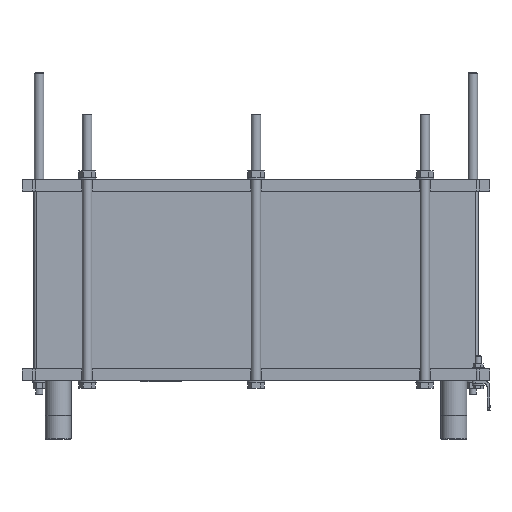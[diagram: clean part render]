
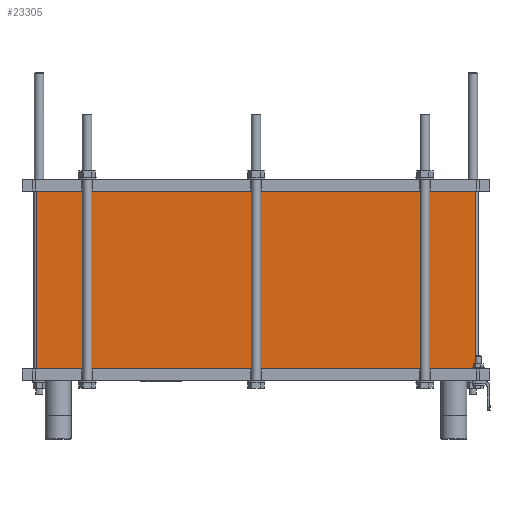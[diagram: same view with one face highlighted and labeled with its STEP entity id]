
A CAD part, left-side view. The second image highlights one B-rep face of the part: STEP entity #23305.
In plain terms, the highlighted planar face has unit normal (-1, 0, 0).
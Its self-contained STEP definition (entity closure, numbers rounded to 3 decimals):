
#15365=CARTESIAN_POINT('',(-62.5,-370.0,20.0));
#15366=VERTEX_POINT('',#15365);
#15374=CARTESIAN_POINT('',(-62.5,370.0,20.0));
#15375=VERTEX_POINT('',#15374);
#15376=CARTESIAN_POINT('',(-62.5,-370.0,20.0));
#15377=DIRECTION('',(0.0,1.0,0.0));
#15378=VECTOR('',#15377,740.0);
#15379=LINE('',#15376,#15378);
#15380=EDGE_CURVE('',#15366,#15375,#15379,.T.);
#22949=CARTESIAN_POINT('',(-62.5,370.0,320.0));
#22950=VERTEX_POINT('',#22949);
#22958=CARTESIAN_POINT('',(-62.5,-370.0,320.0));
#22959=VERTEX_POINT('',#22958);
#22960=CARTESIAN_POINT('',(-62.5,-370.0,320.0));
#22961=DIRECTION('',(0.0,1.0,0.0));
#22962=VECTOR('',#22961,740.0);
#22963=LINE('',#22960,#22962);
#22964=EDGE_CURVE('',#22959,#22950,#22963,.T.);
#23278=CARTESIAN_POINT('',(-62.5,-370.0,20.0));
#23279=DIRECTION('',(0.0,0.0,1.0));
#23280=VECTOR('',#23279,300.0);
#23281=LINE('',#23278,#23280);
#23282=EDGE_CURVE('',#15366,#22959,#23281,.T.);
#23289=CARTESIAN_POINT('',(-62.5,-370.0,20.0));
#23290=DIRECTION('',(-1.0,0.0,0.0));
#23291=DIRECTION('',(0.0,0.0,1.0));
#23292=AXIS2_PLACEMENT_3D('',#23289,#23290,#23291);
#23293=PLANE('',#23292);
#23294=ORIENTED_EDGE('',*,*,#22964,.T.);
#23295=CARTESIAN_POINT('',(-62.5,370.0,20.0));
#23296=DIRECTION('',(0.0,0.0,1.0));
#23297=VECTOR('',#23296,300.0);
#23298=LINE('',#23295,#23297);
#23299=EDGE_CURVE('',#15375,#22950,#23298,.T.);
#23300=ORIENTED_EDGE('',*,*,#23299,.F.);
#23301=ORIENTED_EDGE('',*,*,#15380,.F.);
#23302=ORIENTED_EDGE('',*,*,#23282,.T.);
#23303=EDGE_LOOP('',(#23294,#23300,#23301,#23302));
#23304=FACE_OUTER_BOUND('',#23303,.T.);
#23305=ADVANCED_FACE('',(#23304),#23293,.T.);
